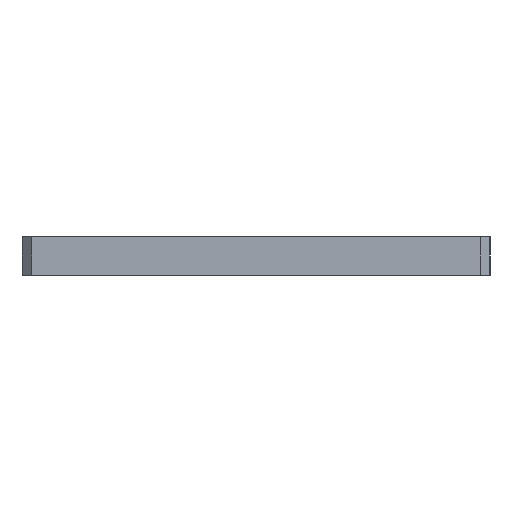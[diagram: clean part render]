
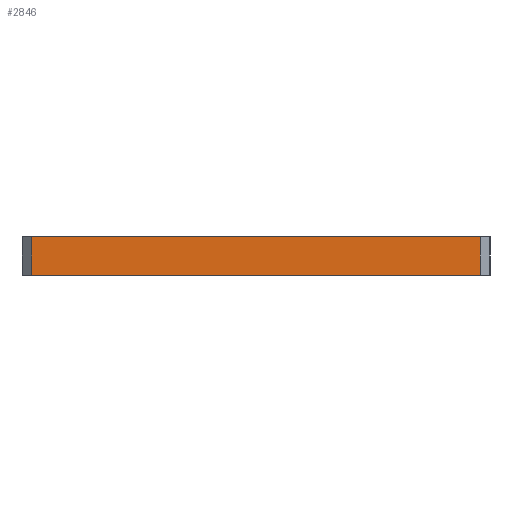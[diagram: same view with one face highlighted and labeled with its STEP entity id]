
A CAD part, left-side view. The second image highlights one B-rep face of the part: STEP entity #2846.
In plain terms, the highlighted planar face has unit normal (-1, 0, 0).
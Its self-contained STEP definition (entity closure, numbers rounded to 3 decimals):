
#14 = EDGE_CURVE ( 'NONE', #1874, #2694, #1598, .T. ) ;
#55 = EDGE_LOOP ( 'NONE', ( #1219, #2052, #2650, #1896 ) ) ;
#89 = DIRECTION ( 'NONE',  ( 0., -1., 0. ) ) ;
#339 = LINE ( 'NONE', #1333, #2104 ) ;
#474 = DIRECTION ( 'NONE',  ( 0., 0., -1. ) ) ;
#719 = CARTESIAN_POINT ( 'NONE',  ( 810.779, 355.563, 20. ) ) ;
#743 = VECTOR ( 'NONE', #2006, 1000. ) ;
#800 = CARTESIAN_POINT ( 'NONE',  ( 810.779, 125.563, 20. ) ) ;
#1219 = ORIENTED_EDGE ( 'NONE', *, *, #14, .T. ) ;
#1230 = VECTOR ( 'NONE', #2271, 1000. ) ;
#1277 = LINE ( 'NONE', #2515, #1230 ) ;
#1329 = VECTOR ( 'NONE', #2353, 1000. ) ;
#1333 = CARTESIAN_POINT ( 'NONE',  ( 810.779, 355.563, 20. ) ) ;
#1450 = FACE_OUTER_BOUND ( 'NONE', #55, .T. ) ;
#1569 = CARTESIAN_POINT ( 'NONE',  ( 810.779, 125.563, 0. ) ) ;
#1598 = LINE ( 'NONE', #2595, #1329 ) ;
#1689 = CARTESIAN_POINT ( 'NONE',  ( 810.779, 355.563, 0. ) ) ;
#1718 = EDGE_CURVE ( 'NONE', #1719, #2840, #339, .T. ) ;
#1719 = VERTEX_POINT ( 'NONE', #1768 ) ;
#1768 = CARTESIAN_POINT ( 'NONE',  ( 810.779, 355.563, 20. ) ) ;
#1792 = LINE ( 'NONE', #800, #743 ) ;
#1874 = VERTEX_POINT ( 'NONE', #1689 ) ;
#1896 = ORIENTED_EDGE ( 'NONE', *, *, #2987, .T. ) ;
#1955 = AXIS2_PLACEMENT_3D ( 'NONE', #719, #2704, #474 ) ;
#2006 = DIRECTION ( 'NONE',  ( 0., 0., -1. ) ) ;
#2052 = ORIENTED_EDGE ( 'NONE', *, *, #2078, .F. ) ;
#2078 = EDGE_CURVE ( 'NONE', #2840, #2694, #1792, .T. ) ;
#2104 = VECTOR ( 'NONE', #89, 1000. ) ;
#2206 = PLANE ( 'NONE',  #1955 ) ;
#2271 = DIRECTION ( 'NONE',  ( 0., 0., -1. ) ) ;
#2353 = DIRECTION ( 'NONE',  ( 0., -1., 0. ) ) ;
#2515 = CARTESIAN_POINT ( 'NONE',  ( 810.779, 355.563, 20. ) ) ;
#2595 = CARTESIAN_POINT ( 'NONE',  ( 810.779, 355.563, 0. ) ) ;
#2650 = ORIENTED_EDGE ( 'NONE', *, *, #1718, .F. ) ;
#2694 = VERTEX_POINT ( 'NONE', #1569 ) ;
#2704 = DIRECTION ( 'NONE',  ( 1., 0., 0. ) ) ;
#2840 = VERTEX_POINT ( 'NONE', #2967 ) ;
#2846 = ADVANCED_FACE ( 'NONE', ( #1450 ), #2206, .F. ) ;
#2967 = CARTESIAN_POINT ( 'NONE',  ( 810.779, 125.563, 20. ) ) ;
#2987 = EDGE_CURVE ( 'NONE', #1719, #1874, #1277, .T. ) ;
